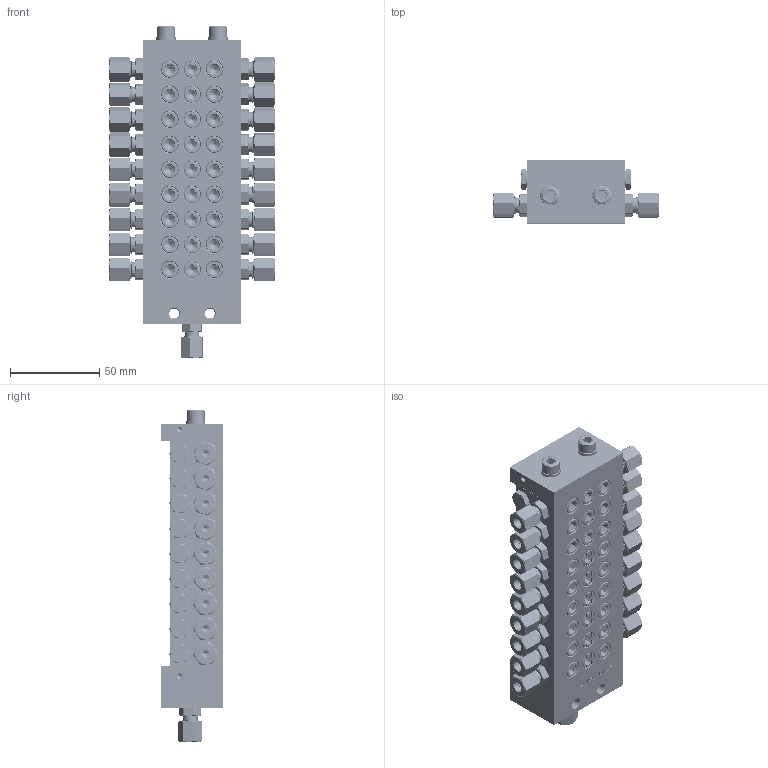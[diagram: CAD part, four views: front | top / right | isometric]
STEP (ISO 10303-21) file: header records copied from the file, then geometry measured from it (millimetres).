
FILE_DESCRIPTION (( 'STEP AP214' ), '1' );
FILE_NAME ('STW_XV_0143_18_0501_18_Auslässe.STEP', '2026-02-04T09:59:33', ( '' ), ( '' ), 'SwSTEP 2.0', 'SolidWorks 2022', '' );
FILE_SCHEMA (( 'AUTOMOTIVE_DESIGN' ));
Length unit declared in the file: millimetre
Products named in the file (14): STW_XV_0143_18_0501_18_Auslässe; XV_Mittelelement; STW_XV_Verbindungsstopen; Verschlussstopfen_1_8_2; 991214010601_Mutter; U_Scheibe_6; STW_XV_MITTEL_1; STW_XV_END; STW_XV_Kolbenanschlag; M6X65_DIN_912; STW_XV_ENGANG; 991214010601_Schneidring; 991214010601_Koerper; 991214010601
Assembly tree (58 placements, depth 3):
  STW_XV_0143_18_0501_18_Auslässe
    STW_XV_ENGANG
    STW_XV_MITTEL_1  x3
    STW_XV_END
    Verschlussstopfen_1_8_2  x6
    STW_XV_Kolbenanschlag  x6
    STW_XV_Verbindungsstopen  x3
    M6X65_DIN_912  x2
    U_Scheibe_6  x2
    991214010601  x19
      991214010601_Koerper
      991214010601_Schneidring
      991214010601_Mutter
    XV_Mittelelement  x6
      STW_XV_MITTEL_1
      STW_XV_Kolbenanschlag
      Verschlussstopfen_1_8_2
      STW_XV_Verbindungsstopen
Bounding box: 92.76 x 35 x 185.68 mm (x, y, z)
Volume: 284808.6 mm3; surface area: 174391.4 mm2
Topology: 117 solids, 117 shells, 3657 faces, 9243 edges, 5934 vertices
Faces by surface type: plane 1632, cylinder 1143, cone 654, bspline 210, torus 18
Full cylindrical faces by diameter (mm): 2 x233, 3 x16, 4.5 x19, 5 x92, 5.5 x2, 5.9 x2, 6 x21, 6.2 x39, 6.4 x2, 6.5 x18, 7 x18, 7.4 x19, 7.67 x19, 8 x37, 8.3 x19, 8.4 x9, 8.6 x45, 9 x38, 9.7 x18, 9.73 x9, 9.8 x133, 10 x20, 11 x2, 15 x1
Entity records: 40755 total; most frequent: CARTESIAN_POINT 20503, ORIENTED_EDGE 2738, DIRECTION 2351, EDGE_CURVE 1369, VERTEX_POINT 974, EDGE_LOOP 901, AXIS2_PLACEMENT_3D 826, FACE_OUTER_BOUND 724
